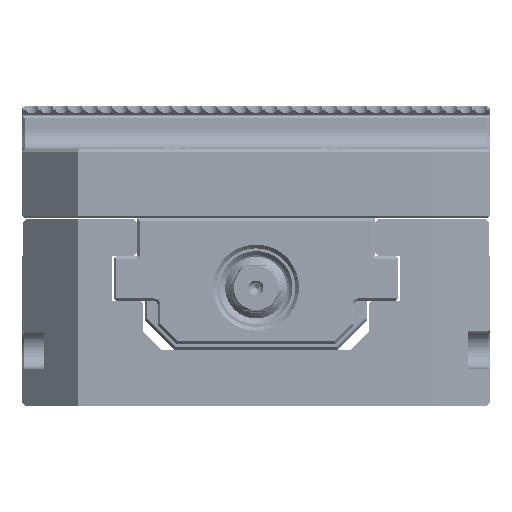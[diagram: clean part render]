
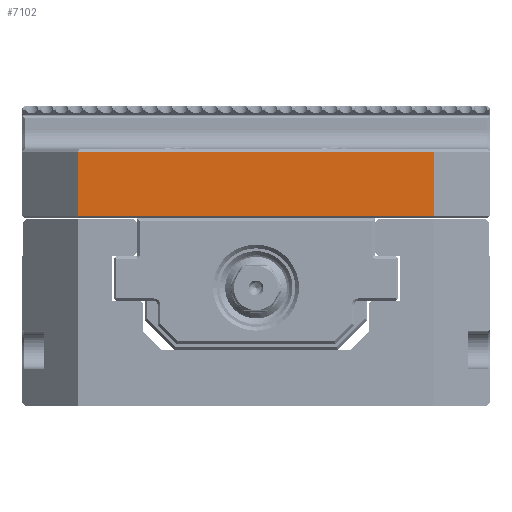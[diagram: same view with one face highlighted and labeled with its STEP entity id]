
A CAD part, front view. The second image highlights one B-rep face of the part: STEP entity #7102.
In plain terms, the highlighted planar face has unit normal (0, -1, 0).
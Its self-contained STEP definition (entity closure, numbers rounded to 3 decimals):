
#5674=PLANE('',#42585);
#7102=ADVANCED_FACE('',(#9634),#5674,.F.);
#9634=FACE_OUTER_BOUND('',#11654,.T.);
#11654=EDGE_LOOP('',(#22932,#22933,#22934,#22935));
#14136=LINE('',#97600,#16679);
#14477=LINE('',#98821,#17020);
#14478=LINE('',#98823,#17021);
#14479=LINE('',#98825,#17022);
#16679=VECTOR('',#46820,1.);
#17020=VECTOR('',#48063,1.);
#17021=VECTOR('',#48064,1.);
#17022=VECTOR('',#48065,1.);
#22932=ORIENTED_EDGE('',*,*,#35173,.T.);
#22933=ORIENTED_EDGE('',*,*,#35776,.T.);
#22934=ORIENTED_EDGE('',*,*,#35777,.T.);
#22935=ORIENTED_EDGE('',*,*,#35778,.T.);
#31074=VERTEX_POINT('',#97599);
#31075=VERTEX_POINT('',#97601);
#31496=VERTEX_POINT('',#98822);
#31497=VERTEX_POINT('',#98824);
#35173=EDGE_CURVE('',#31075,#31074,#14136,.T.);
#35776=EDGE_CURVE('',#31074,#31496,#14477,.T.);
#35777=EDGE_CURVE('',#31496,#31497,#14478,.T.);
#35778=EDGE_CURVE('',#31497,#31075,#14479,.T.);
#42585=AXIS2_PLACEMENT_3D('',#98826,#48066,#48067);
#46820=DIRECTION('',(0.,0.,1.));
#48063=DIRECTION('',(-1.,0.,0.));
#48064=DIRECTION('',(0.,0.,-1.));
#48065=DIRECTION('',(1.,0.,0.));
#48066=DIRECTION('',(0.,1.,0.));
#48067=DIRECTION('',(0.,0.,-1.));
#97599=CARTESIAN_POINT('',(47.5,-131.5,67.9));
#97600=CARTESIAN_POINT('',(47.5,-131.5,53.6));
#97601=CARTESIAN_POINT('',(47.5,-131.5,50.8));
#98821=CARTESIAN_POINT('',(-38.5,-131.5,67.9));
#98822=CARTESIAN_POINT('',(-47.5,-131.5,67.9));
#98823=CARTESIAN_POINT('',(-47.5,-131.5,50.1));
#98824=CARTESIAN_POINT('',(-47.5,-131.5,50.8));
#98825=CARTESIAN_POINT('',(-38.5,-131.5,50.8));
#98826=CARTESIAN_POINT('',(-38.5,-131.5,53.6));
